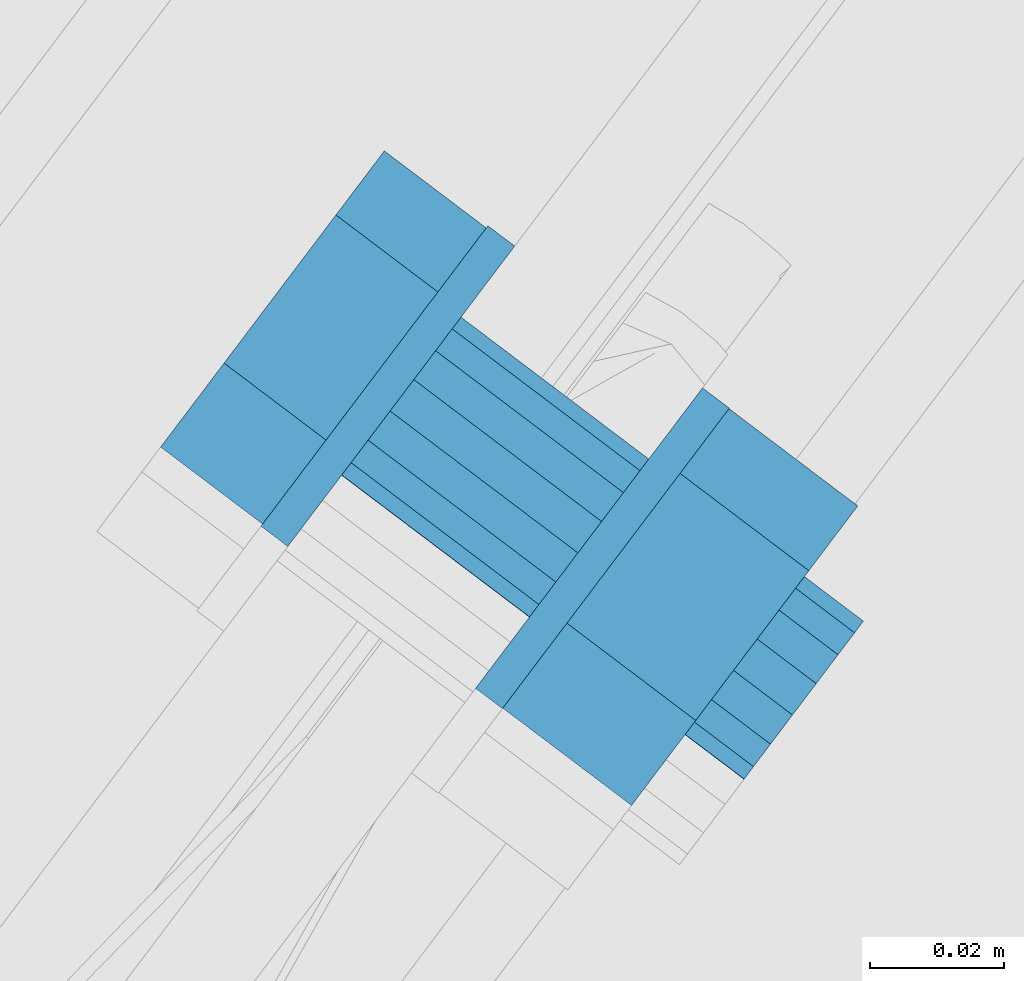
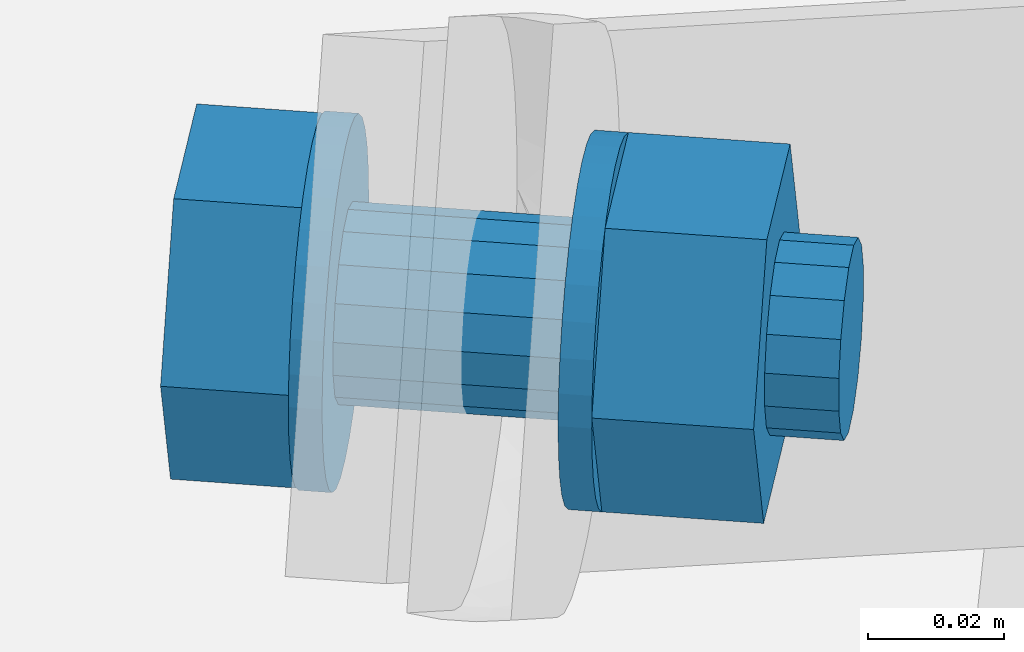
# One storey, part 216 of 476: 1 mechanical fastener.
"""IFC2X3 building model written with IfcOpenShell, lengths in millimetres."""

from ifc_helpers import new_model, entity, si_unit, converted_unit, origin_with_axes, place, context, project, spatial, faceted_brep, element, save


model = new_model("IFC2X3")

# Units and contexts
model_context = context("Model", 3, precision=1e-09, world=origin_with_axes())
ifc_project = project(units=[si_unit("LENGTHUNIT", "METRE", prefix="MILLI"), si_unit("AREAUNIT", "SQUARE_METRE"), si_unit("VOLUMEUNIT", "CUBIC_METRE"), converted_unit("PLANEANGLEUNIT", "DEGREE", entity("IfcPlaneAngleMeasure", 0.01745329), si_unit("PLANEANGLEUNIT", "RADIAN"), dimensions=[0, 0, 0, 0, 0, 0, 0])], contexts=[model_context])

# Site, building, storey
site_placement = place(None, origin_with_axes())
site = spatial("IfcSite", under=ifc_project, at=site_placement, Name="mKR Teilneubau & Sanierung BA1 - Ostfildern", CompositionType="ELEMENT")
building_placement = place(site_placement, origin_with_axes())
building = spatial("IfcBuilding", under=site, at=building_placement, Name="Struktur 1", CompositionType="ELEMENT")
storey_placement = place(building_placement, origin_with_axes())
storey = spatial("IfcBuildingStorey", under=building, at=storey_placement, Name="Default Storey", CompositionType="ELEMENT", Elevation=0.0)

# Mechanical fastener
mechanical_fastener_placement = place(None, origin_with_axes())
element("IfcMechanicalFastener", 1, at=mechanical_fastener_placement, inside=storey, ObjectType="-", NominalDiameter=30.0, NominalLength=80.0, context=model_context, shape_type="Brep", body=[
    faceted_brep([(4955.292023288, 6265.631400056, 2286.744480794), (4959.281732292, 6262.617727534, 2286.744480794), (4957.151672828, 6259.79780687, 2282.544531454), (4953.161963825, 6262.811479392, 2282.544531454), (4954.56867961, 6256.378261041, 2279.114730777), (4950.578970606, 6259.391933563, 2279.114730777), (4951.632015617, 6252.490501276, 2276.58688408), (4947.642306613, 6255.504173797, 2276.58688408), (4948.454535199, 6248.283932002, 2275.058135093), (4944.464826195, 6251.297604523, 2275.058135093), (4945.158347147, 6243.920209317, 2274.587232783), (4941.168638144, 6246.933881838, 2274.587232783), (4941.87012212, 6239.567028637, 2275.192273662), (4937.880413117, 6242.580701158, 2275.192273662), (4938.716224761, 6235.391680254, 2276.850006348), (4934.726515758, 6238.405352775, 2276.850006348), (4935.817857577, 6231.554620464, 2279.496725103), (4931.828148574, 6234.568292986, 2279.496725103), (4933.286403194, 6228.203305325, 2283.03071801), (4929.29669419, 6231.216977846, 2283.03071801), (4931.219143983, 6225.466523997, 2287.316175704), (4927.229434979, 6228.480196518, 2287.316175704), (4929.695523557, 6223.449449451, 2292.188410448), (4925.705814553, 6226.463121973, 2292.188410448), (4928.774093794, 6222.229596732, 2297.460184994), (4924.78438479, 6225.243269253, 2297.460184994), (4928.490264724, 6221.853844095, 2302.928908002), (4924.50055572, 6224.867516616, 2302.928908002), (4928.854943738, 6222.336631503, 2308.384419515), (4924.865234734, 6225.350304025, 2308.384419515), (4929.854116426, 6223.659405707, 2313.617067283), (4925.864407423, 6226.673078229, 2313.617067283), (4931.449385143, 6225.771333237, 2318.425763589), (4927.45967614, 6228.785005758, 2318.425763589), (4933.579444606, 6228.591253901, 2322.625712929), (4929.589735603, 6231.604926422, 2322.625712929), (4936.162437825, 6232.01079973, 2326.055513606), (4932.172728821, 6235.024472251, 2326.055513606), (4939.099101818, 6235.898559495, 2328.583360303), (4935.109392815, 6238.912232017, 2328.583360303), (4942.276582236, 6240.105128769, 2330.11210929), (4938.286873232, 6243.118801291, 2330.11210929), (4945.572770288, 6244.468851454, 2330.5830116), (4941.583061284, 6247.482523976, 2330.5830116), (4948.860995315, 6248.822032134, 2329.977970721), (4944.871286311, 6251.835704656, 2329.977970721), (4952.014892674, 6252.997380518, 2328.320238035), (4948.02518367, 6256.011053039, 2328.320238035), (4954.913259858, 6256.834440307, 2325.67351928), (4950.923550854, 6259.848112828, 2325.67351928), (4957.444714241, 6260.185755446, 2322.139526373), (4953.455005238, 6263.199427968, 2322.139526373), (4959.511973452, 6262.922536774, 2317.85406868), (4955.522264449, 6265.936209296, 2317.85406868), (4961.035593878, 6264.93961132, 2312.981833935), (4957.045884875, 6267.953283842, 2312.981833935), (4961.957023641, 6266.159464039, 2307.710059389), (4957.967314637, 6269.173136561, 2307.710059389), (4962.240852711, 6266.535216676, 2302.241336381), (4958.251143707, 6269.548889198, 2302.241336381), (4961.876173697, 6266.052429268, 2296.785824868), (4957.886464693, 6269.066101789, 2296.785824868), (4960.877001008, 6264.729655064, 2291.5531771), (4956.887292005, 6267.743327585, 2291.5531771)], [[[0, 1, 2, 3]], [[3, 2, 4, 5]], [[5, 4, 6, 7]], [[7, 6, 8, 9]], [[9, 8, 10, 11]], [[11, 10, 12, 13]], [[13, 12, 14, 15]], [[15, 14, 16, 17]], [[17, 16, 18, 19]], [[19, 18, 20, 21]], [[21, 20, 22, 23]], [[23, 22, 24, 25]], [[25, 24, 26, 27]], [[27, 26, 28, 29]], [[29, 28, 30, 31]], [[31, 30, 32, 33]], [[33, 32, 34, 35]], [[35, 34, 36, 37]], [[37, 36, 38, 39]], [[39, 38, 40, 41]], [[41, 40, 42, 43]], [[43, 42, 44, 45]], [[45, 44, 46, 47]], [[47, 46, 48, 49]], [[49, 48, 50, 51]], [[51, 50, 52, 53]], [[53, 52, 54, 55]], [[55, 54, 56, 57]], [[57, 56, 58, 59]], [[59, 58, 60, 61]], [[61, 60, 62, 63]], [[63, 62, 1, 0]], [[0, 3, 5, 7, 9, 11, 13, 15, 17, 19, 21, 23, 25, 27, 29, 31, 33, 35, 37, 39, 41, 43, 45, 47, 49, 51, 53, 55, 57, 59, 61, 63]], [[1, 62, 60, 58, 56, 54, 52, 50, 48, 46, 44, 42, 40, 38, 36, 34, 32, 30, 28, 26, 24, 22, 20, 18, 16, 14, 12, 10, 8, 6, 4, 2]]]),
    faceted_brep([(4924.739527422, 6225.183883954, 2304.734861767), (4909.578633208, 6236.635839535, 2304.734861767), (4916.774665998, 6246.162447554, 2279.75646957), (4931.935560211, 6234.710491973, 2279.75646957), (4933.410988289, 6268.186766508, 2277.606729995), (4948.571882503, 6256.734810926, 2277.606729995), (4942.851277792, 6280.684477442, 2300.435382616), (4958.012172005, 6269.232521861, 2300.435382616), (4935.655245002, 6271.157869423, 2325.413774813), (4950.816139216, 6259.705913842, 2325.413774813), (4919.018922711, 6249.13355047, 2327.563514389), (4934.179816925, 6237.681594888, 2327.563514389)], [[[0, 1, 2, 3]], [[3, 2, 4, 5]], [[5, 4, 6, 7]], [[7, 6, 8, 9]], [[9, 8, 10, 11]], [[11, 10, 1, 0]], [[4, 2, 1, 10, 8, 6]], [[0, 3, 5, 7, 9, 11]]]),
    faceted_brep([(4952.820651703, 6254.064100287, 2294.0990643), (4980.748614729, 6232.968392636, 2294.0990643), (4978.223765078, 6229.625821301, 2290.01169822), (4950.295802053, 6250.721528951, 2290.01169822), (4974.948330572, 6225.289573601, 2287.83852196), (4947.020367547, 6246.385281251, 2287.83852196), (4971.420966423, 6220.619803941, 2287.910381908), (4943.493003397, 6241.715511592, 2287.910381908), (4968.178681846, 6216.327442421, 2290.216338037), (4940.250718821, 6237.423150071, 2290.216338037), (4965.715085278, 6213.06596217, 2294.40532943), (4937.787122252, 6234.16166982, 2294.40532943), (4964.405236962, 6211.331893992, 2299.839620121), (4936.477273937, 6232.427601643, 2299.839620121), (4964.448549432, 6211.389234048, 2305.691888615), (4936.520586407, 6232.484941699, 2305.691888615), (4965.838428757, 6213.229252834, 2311.071180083), (4937.910465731, 6234.324960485, 2311.071180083), (4968.363278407, 6216.57182417, 2315.158546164), (4940.435315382, 6237.66753182, 2315.158546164), (4971.638712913, 6220.90807187, 2317.331722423), (4943.710749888, 6242.00377952, 2317.331722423), (4975.166077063, 6225.577841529, 2317.259862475), (4947.238114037, 6246.67354918, 2317.259862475), (4978.408361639, 6229.87020305, 2314.953906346), (4950.480398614, 6250.965910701, 2314.953906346), (4980.871958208, 6233.131683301, 2310.764914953), (4952.943995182, 6254.227390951, 2310.764914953), (4982.181806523, 6234.865751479, 2305.330624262), (4954.253843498, 6255.961459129, 2305.330624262), (4982.138494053, 6234.808411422, 2299.478355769), (4954.210531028, 6255.904119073, 2299.478355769)], [[[0, 1, 2, 3]], [[3, 2, 4, 5]], [[5, 4, 6, 7]], [[7, 6, 8, 9]], [[9, 8, 10, 11]], [[11, 10, 12, 13]], [[13, 12, 14, 15]], [[15, 14, 16, 17]], [[17, 16, 18, 19]], [[19, 18, 20, 21]], [[21, 20, 22, 23]], [[23, 22, 24, 25]], [[25, 24, 26, 27]], [[27, 26, 28, 29]], [[29, 28, 30, 31]], [[31, 30, 1, 0]], [[0, 3, 5, 7, 9, 11, 13, 15, 17, 19, 21, 23, 25, 27, 29, 31]], [[1, 30, 28, 26, 24, 22, 20, 18, 16, 14, 12, 10, 8, 6, 4, 2]]]),
    faceted_brep([(4987.209695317, 6241.522019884, 2286.744480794), (4991.19940432, 6238.508347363, 2286.744480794), (4989.069344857, 6235.688426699, 2282.544531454), (4985.079635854, 6238.70209922, 2282.544531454), (4986.486351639, 6232.26888087, 2279.114730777), (4982.496642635, 6235.282553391, 2279.114730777), (4983.549687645, 6228.381121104, 2276.58688408), (4979.559978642, 6231.394793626, 2276.58688408), (4980.372207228, 6224.17455183, 2275.058135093), (4976.382498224, 6227.188224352, 2275.058135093), (4977.076019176, 6219.810829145, 2274.587232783), (4973.086310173, 6222.824501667, 2274.587232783), (4973.787794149, 6215.457648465, 2275.192273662), (4969.798085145, 6218.471320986, 2275.192273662), (4970.63389679, 6211.282300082, 2276.850006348), (4966.644187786, 6214.295972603, 2276.850006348), (4967.735529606, 6207.445240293, 2279.496725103), (4963.745820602, 6210.458912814, 2279.496725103), (4965.204075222, 6204.093925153, 2283.03071801), (4961.214366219, 6207.107597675, 2283.03071801), (4963.136816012, 6201.357143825, 2287.316175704), (4959.147107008, 6204.370816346, 2287.316175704), (4961.613195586, 6199.340069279, 2292.188410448), (4957.623486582, 6202.353741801, 2292.188410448), (4960.691765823, 6198.12021656, 2297.460184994), (4956.702056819, 6201.133889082, 2297.460184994), (4960.407936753, 6197.744463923, 2302.928908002), (4956.418227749, 6200.758136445, 2302.928908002), (4960.772615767, 6198.227251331, 2308.384419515), (4956.782906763, 6201.240923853, 2308.384419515), (4961.771788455, 6199.550025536, 2313.617067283), (4957.782079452, 6202.563698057, 2313.617067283), (4963.367057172, 6201.661953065, 2318.425763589), (4959.377348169, 6204.675625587, 2318.425763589), (4965.497116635, 6204.481873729, 2322.625712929), (4961.507407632, 6207.495546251, 2322.625712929), (4968.080109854, 6207.901419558, 2326.055513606), (4964.09040085, 6210.91509208, 2326.055513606), (4971.016773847, 6211.789179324, 2328.583360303), (4967.027064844, 6214.802851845, 2328.583360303), (4974.194254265, 6215.995748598, 2330.11210929), (4970.204545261, 6219.009421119, 2330.11210929), (4977.490442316, 6220.359471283, 2330.5830116), (4973.500733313, 6223.373143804, 2330.5830116), (4980.778667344, 6224.712651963, 2329.977970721), (4976.78895834, 6227.726324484, 2329.977970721), (4983.932564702, 6228.888000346, 2328.320238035), (4979.942855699, 6231.901672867, 2328.320238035), (4986.830931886, 6232.725060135, 2325.67351928), (4982.841222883, 6235.738732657, 2325.67351928), (4989.36238627, 6236.076375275, 2322.139526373), (4985.372677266, 6239.090047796, 2322.139526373), (4991.429645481, 6238.813156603, 2317.85406868), (4987.439936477, 6241.826829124, 2317.85406868), (4992.953265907, 6240.830231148, 2312.981833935), (4988.963556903, 6243.84390367, 2312.981833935), (4993.87469567, 6242.050083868, 2307.710059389), (4989.884986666, 6245.063756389, 2307.710059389), (4994.15852474, 6242.425836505, 2302.241336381), (4990.168815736, 6245.439509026, 2302.241336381), (4993.793845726, 6241.943049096, 2296.785824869), (4989.804136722, 6244.956721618, 2296.785824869), (4992.794673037, 6240.620274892, 2291.5531771), (4988.804964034, 6243.633947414, 2291.5531771)], [[[0, 1, 2, 3]], [[3, 2, 4, 5]], [[5, 4, 6, 7]], [[7, 6, 8, 9]], [[9, 8, 10, 11]], [[11, 10, 12, 13]], [[13, 12, 14, 15]], [[15, 14, 16, 17]], [[17, 16, 18, 19]], [[19, 18, 20, 21]], [[21, 20, 22, 23]], [[23, 22, 24, 25]], [[25, 24, 26, 27]], [[27, 26, 28, 29]], [[29, 28, 30, 31]], [[31, 30, 32, 33]], [[33, 32, 34, 35]], [[35, 34, 36, 37]], [[37, 36, 38, 39]], [[39, 38, 40, 41]], [[41, 40, 42, 43]], [[43, 42, 44, 45]], [[45, 44, 46, 47]], [[47, 46, 48, 49]], [[49, 48, 50, 51]], [[51, 50, 52, 53]], [[53, 52, 54, 55]], [[55, 54, 56, 57]], [[57, 56, 58, 59]], [[59, 58, 60, 61]], [[61, 60, 62, 63]], [[63, 62, 1, 0]], [[0, 3, 5, 7, 9, 11, 13, 15, 17, 19, 21, 23, 25, 27, 29, 31, 33, 35, 37, 39, 41, 43, 45, 47, 49, 51, 53, 55, 57, 59, 61, 63]], [[1, 62, 60, 58, 56, 54, 52, 50, 48, 46, 44, 42, 40, 38, 36, 34, 32, 30, 28, 26, 24, 22, 20, 18, 16, 14, 12, 10, 8, 6, 4, 2]]]),
    faceted_brep([(4979.608223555, 6183.344610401, 2304.75932151), (4960.457620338, 6197.810238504, 2304.75932151), (4967.735529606, 6207.445240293, 2279.496725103), (4986.886132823, 6192.97961219, 2279.496725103), (4984.561140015, 6229.720152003, 2277.322525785), (5003.711743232, 6215.2545239, 2277.322525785), (4994.108841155, 6242.360061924, 2300.410922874), (5013.259444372, 6227.894433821, 2300.410922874), (4986.830931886, 6232.725060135, 2325.67351928), (5005.981535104, 6218.259432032, 2325.67351928), (4970.005321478, 6210.450148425, 2327.847718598), (4989.155924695, 6195.984520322, 2327.847718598)], [[[0, 1, 2, 3]], [[3, 2, 4, 5]], [[5, 4, 6, 7]], [[7, 6, 8, 9]], [[9, 8, 10, 11]], [[11, 10, 1, 0]], [[4, 2, 1, 10, 8, 6]], [[0, 3, 5, 7, 9, 11]]]),
    faceted_brep([(5003.88892695, 6215.489092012, 2294.0990643), (5012.666286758, 6208.859012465, 2294.0990643), (5010.141437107, 6205.516441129, 2290.01169822), (5001.364077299, 6212.146520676, 2290.01169822), (5006.866002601, 6201.18019343, 2287.83852196), (4998.088642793, 6207.810272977, 2287.83852196), (5003.338638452, 6196.51042377, 2287.910381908), (4994.561278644, 6203.140503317, 2287.910381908), (5000.096353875, 6192.218062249, 2290.216338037), (4991.318994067, 6198.848141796, 2290.216338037), (4997.632757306, 6188.956581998, 2294.40532943), (4988.855397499, 6195.586661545, 2294.40532943), (4996.322908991, 6187.222513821, 2299.839620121), (4987.545549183, 6193.852593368, 2299.839620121), (4996.366221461, 6187.279853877, 2305.691888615), (4987.588861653, 6193.909933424, 2305.691888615), (4997.756100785, 6189.119872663, 2311.071180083), (4988.978740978, 6195.74995221, 2311.071180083), (5000.280950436, 6192.462443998, 2315.158546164), (4991.503590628, 6199.092523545, 2315.158546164), (5003.556384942, 6196.798691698, 2317.331722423), (4994.779025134, 6203.428771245, 2317.331722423), (5007.083749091, 6201.468461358, 2317.259862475), (4998.306389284, 6208.098540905, 2317.259862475), (5010.326033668, 6205.760822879, 2314.953906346), (5001.54867386, 6212.390902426, 2314.953906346), (5012.789630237, 6209.022303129, 2310.764914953), (5004.012270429, 6215.652382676, 2310.764914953), (5014.099478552, 6210.756371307, 2305.330624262), (5005.322118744, 6217.386450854, 2305.330624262), (5014.056166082, 6210.699031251, 2299.478355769), (5005.278806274, 6217.329110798, 2299.478355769)], [[[0, 1, 2, 3]], [[3, 2, 4, 5]], [[5, 4, 6, 7]], [[7, 6, 8, 9]], [[9, 8, 10, 11]], [[11, 10, 12, 13]], [[13, 12, 14, 15]], [[15, 14, 16, 17]], [[17, 16, 18, 19]], [[19, 18, 20, 21]], [[21, 20, 22, 23]], [[23, 22, 24, 25]], [[25, 24, 26, 27]], [[27, 26, 28, 29]], [[29, 28, 30, 31]], [[31, 30, 1, 0]], [[0, 3, 5, 7, 9, 11, 13, 15, 17, 19, 21, 23, 25, 27, 29, 31]], [[1, 30, 28, 26, 24, 22, 20, 18, 16, 14, 12, 10, 8, 6, 4, 2]]]),
])

save(model, "model.ifc")
